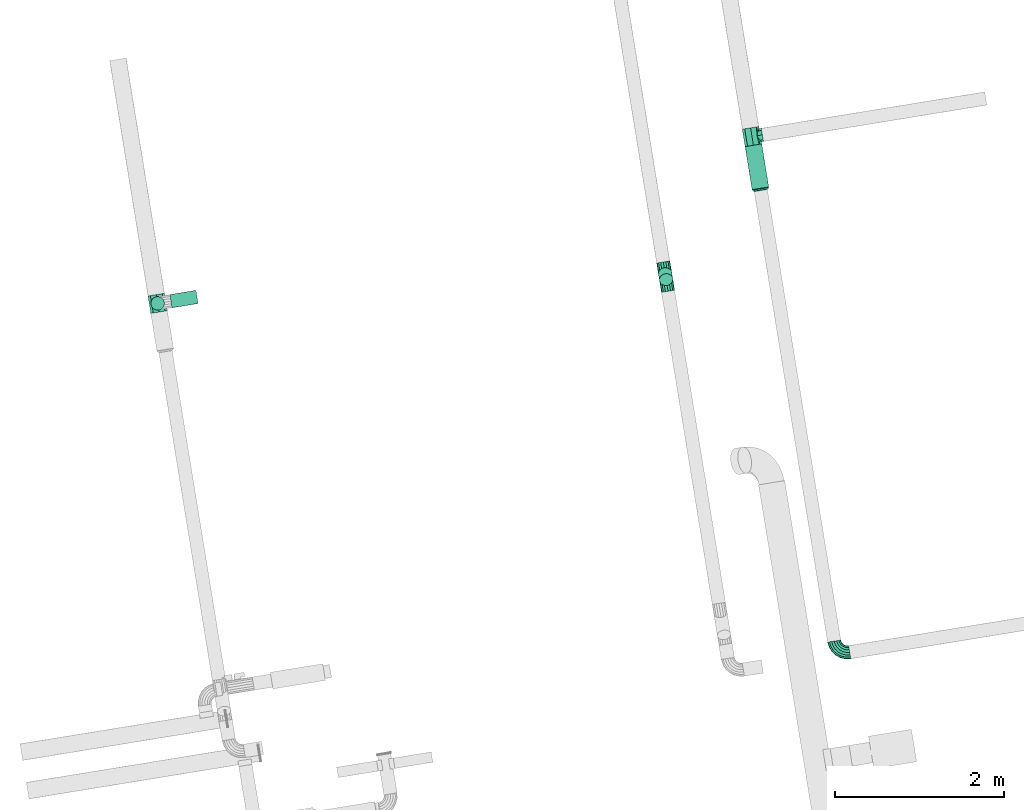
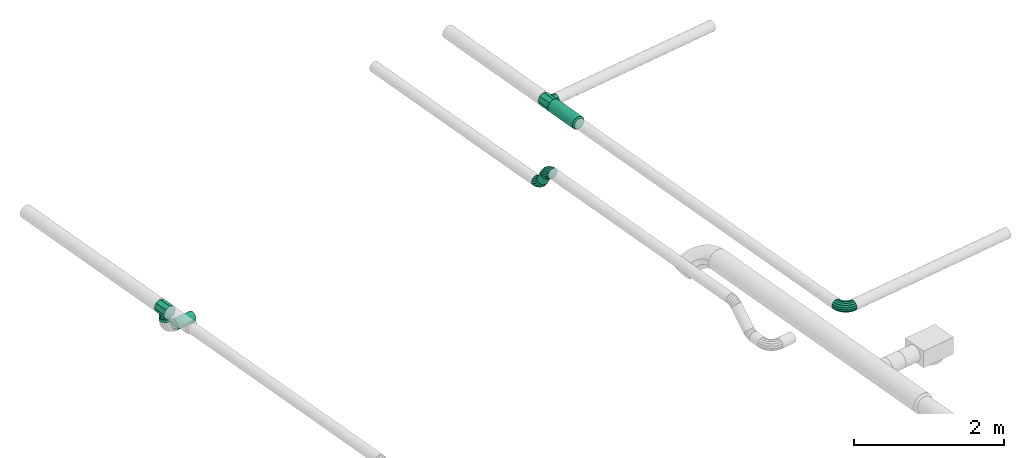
# One storey, part 8 of 19: 6 flow fittings, 4 flow segments.
"""IFC2X3 building model written with IfcOpenShell, lengths in millimetres."""

from ifc_helpers import new_model, entity, si_unit, converted_unit, derived_unit, direction, frame, frame_2d, origin, origin_with_axes, origin_2d_with_axis, place, context, subcontext, project, spatial, circle, extrude, faceted_brep, source, transform, mapped, material, type_object, element, save


model = new_model("IFC2X3")

# Units and contexts
model_context = context("Model", 3, precision=0.01, world=origin(), true_north=direction((6.12323399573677e-17, 1.0)))
plan_context = context("Plan", 3, precision=1e-05, world=origin_with_axes())
body_context = subcontext(model_context, "Body", "Model", "MODEL_VIEW")
ifc_project = project(units=[converted_unit("PLANEANGLEUNIT", "DEGREE", entity("IfcPositiveLengthMeasure", 0.0174532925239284), si_unit("PLANEANGLEUNIT", "RADIAN"), dimensions=[0, 0, 0, 0, 0, 0, 0]), si_unit("AREAUNIT", "SQUARE_METRE"), si_unit("LENGTHUNIT", "METRE", prefix="MILLI"), si_unit("MASSUNIT", "GRAM", prefix="KILO"), si_unit("POWERUNIT", "WATT"), si_unit("PRESSUREUNIT", "PASCAL", prefix="KILO"), si_unit("FORCEUNIT", "NEWTON", prefix="KILO"), si_unit("ELECTRICVOLTAGEUNIT", "VOLT"), si_unit("ELECTRICCURRENTUNIT", "AMPERE"), si_unit("THERMODYNAMICTEMPERATUREUNIT", "DEGREE_CELSIUS"), si_unit("TIMEUNIT", "SECOND"), si_unit("VOLUMEUNIT", "CUBIC_METRE"), derived_unit("LINEARVELOCITYUNIT", [(si_unit("LENGTHUNIT", "METRE"), 1), (si_unit("TIMEUNIT", "SECOND"), -1)]), derived_unit("VOLUMETRICFLOWRATEUNIT", [(si_unit("VOLUMEUNIT", "CUBIC_METRE"), 1), (si_unit("TIMEUNIT", "SECOND"), -1)]), derived_unit("THERMALTRANSMITTANCEUNIT", [(si_unit("POWERUNIT", "WATT"), 1), (si_unit("THERMODYNAMICTEMPERATUREUNIT", "KELVIN"), -1), (si_unit("AREAUNIT", "SQUARE_METRE"), -1)]), derived_unit("SOUNDPRESSUREUNIT", [(si_unit("PRESSUREUNIT", "PASCAL"), 1)])], contexts=[model_context, plan_context])

# Site, building, storey
site_placement = place(None, frame((5.09380697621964e-08, 5.80416781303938e-08, 0.0), z_axis=(0.0, 0.0, 1.0), x_axis=(-0.160806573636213, 0.986985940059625, 0.0)))
site = spatial("IfcSite", under=ifc_project, at=site_placement, Name="Default", CompositionType="ELEMENT")
building_placement = place(site_placement, frame((0.0, 0.0, 0.0), z_axis=(0.0, 0.0, 1.0), x_axis=(1.0, -2.77555756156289e-17, 0.0)))
building = spatial("IfcBuilding", under=site, at=building_placement, Name="Bygning (endres i Project Information)", CompositionType="ELEMENT")
storey_placement = place(building_placement, frame((0.0, 0.0, 51360.0000000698), z_axis=(0.0, 0.0, 1.0), x_axis=(1.0, -2.77555756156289e-17, 0.0)))
storey = spatial("IfcBuildingStorey", under=building, at=storey_placement, Name="H01-Nivå D+0,36", CompositionType="ELEMENT", Elevation=51360.0000000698)

# Flow fittings
ifc_material_1 = material(Name="DF_Material1")
duct_fitting_type_1 = type_object("IfcDuctFittingType", Name="Lindab TCPU:TCPU", PredefinedType="NOTDEFINED", material=ifc_material_1)
shared_shape_1 = source(origin(), body_context, "Body", "Brep", [
    faceted_brep([(80.0000001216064, -125.0, 0.0), (56.5685425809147, -125.0, 56.5685425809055), (0.0, -125.0, 80.0000001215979), (-56.5685425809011, -125.0, 56.5685425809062), (-80.0000001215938, -125.0, 0.0), (-56.568542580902, -125.0, -56.5685425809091), (0.0, -125.0, -80.0000001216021), (56.568542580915, -125.0, -56.568542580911), (-60.636107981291, -85.3037959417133, 52.1848869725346), (0.0, -60.0000000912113, 80.0000001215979), (-80.0000001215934, -100.000000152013, 0.0), (-70.3180540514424, -92.6518980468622, 26.092443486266), (-65.5820813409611, -89.4264237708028, -30.7499125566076), (-51.1641625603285, -78.852847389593, -61.4998251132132), (0.0, -60.0000000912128, -80.0000001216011), (60.6361079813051, -85.303795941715, -52.1848869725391), (80.0000001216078, -100.000000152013, 0.0), (70.3180540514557, -92.651898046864, -26.0924434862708), (65.5794107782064, -89.424691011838, 30.7521341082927), (51.1588214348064, -78.8493818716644, 61.504268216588), (-104.499999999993, -100.000000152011, 0.0), (-104.499999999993, -92.6776696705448, 17.677669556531), (-104.499999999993, -85.3553391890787, 35.3553391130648), (-104.499999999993, -70.7106782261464, 70.7106782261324), (-104.499999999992, 0.0, 100.000000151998), (-104.499999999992, 70.7106782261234, 70.7106782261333), (-104.499999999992, 100.000000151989, 0.0), (-104.499999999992, 70.7106782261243, -70.7106782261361), (-104.499999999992, 0.0, -100.000000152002), (-104.499999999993, -70.7106782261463, -70.7106782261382), (-104.499999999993, -85.3553391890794, -35.3553391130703), (104.500000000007, -70.7106782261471, 70.7106782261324), (104.500000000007, -85.3553391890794, 35.3553391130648), (104.500000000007, -100.000000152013, 0.0), (104.500000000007, -92.6776696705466, -17.6776695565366), (104.500000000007, -85.3553391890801, -35.3553391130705), (104.500000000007, -70.710678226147, -70.7106782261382), (104.500000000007, 0.0, -100.000000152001), (104.500000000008, 70.7106782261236, -70.7106782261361), (104.500000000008, 100.000000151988, 0.0), (104.500000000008, 70.7106782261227, 70.7106782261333), (104.500000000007, 0.0, 100.000000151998)], [[[0, 1, 2, 3, 4, 5, 6, 7]], [[2, 8, 3]], [[8, 2, 9]], [[10, 4, 3]], [[3, 8, 11, 10]], [[4, 10, 5]], [[5, 10, 12, 13]], [[13, 14, 6]], [[13, 6, 5]], [[6, 15, 7]], [[15, 6, 14]], [[16, 0, 7]], [[7, 15, 17, 16]], [[0, 16, 1]], [[1, 16, 18, 19]], [[19, 9, 2]], [[19, 2, 1]], [[20, 21, 22, 23, 24, 25, 26, 27, 28, 29, 30]], [[31, 32, 33, 34, 35, 36, 37, 38, 39, 40, 41]], [[24, 41, 40, 25]], [[40, 39, 26, 25]], [[39, 38, 27, 26]], [[38, 37, 28, 27]], [[37, 36, 14]], [[28, 14, 29]], [[14, 28, 37]], [[13, 29, 14]], [[17, 35, 34]], [[14, 36, 15]], [[35, 17, 15]], [[34, 16, 17]], [[30, 13, 12]], [[20, 30, 12]], [[15, 36, 35]], [[16, 34, 33]], [[13, 30, 29]], [[20, 12, 10]], [[11, 22, 21]], [[33, 18, 16]], [[11, 8, 22]], [[10, 21, 20]], [[32, 19, 18]], [[21, 10, 11]], [[32, 18, 33]], [[9, 19, 31]], [[31, 19, 32]], [[9, 31, 41]], [[23, 9, 24]], [[23, 8, 9]], [[24, 9, 41]], [[8, 23, 22]]]),
])
for number, where, z_axis, x_axis in (
    (1, (1013708.49004626, -386501.39713563, 3799.99999996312), (-2.77554043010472e-17, -0.99999382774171, -0.00351347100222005), (1.0, -2.77555756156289e-17, 0.0)),
    (2, (1014526.545205, -393771.087508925, 3500.0), (0.0, 0.0, 1.0), (1.0, -2.77555756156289e-17, 0.0)),
):
    element("IfcFlowFitting", number, at=place(storey_placement, frame(where, z_axis=z_axis, x_axis=x_axis)), inside=storey, type_object=duct_fitting_type_1, material=ifc_material_1, Name="Lindab TCPU:TCPU", ObjectType="Lindab TCPU:TCPU", context=body_context, shape_type="MappedRepresentation", body=[
        mapped(shared_shape_1, transform((0.0, 0.0, 0.0), scale=1.0)),
    ])
ifc_material_2 = material(Name="Material_Duct")
duct_fitting_type_2 = type_object("IfcDuctFittingType", Name="magicirc_reduction_NOR:magicirc_reduction_NOR", PredefinedType="NOTDEFINED", material=ifc_material_2)
shared_shape_2 = source(origin(), body_context, "Body", "Brep", [
    faceted_brep([(20.0000000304, -80.0000001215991, 0.0), (20.0000000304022, -76.9551814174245, -15.3073373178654), (20.0000000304, -73.9103627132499, -30.614674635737), (20.0000000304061, -65.2394526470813, -43.5916086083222), (20.0000000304, -56.5685425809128, -56.5685425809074), (20.0000000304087, -43.5916086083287, -65.2394526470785), (20.0000000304, -30.6146746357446, -73.9103627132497), (20.0000000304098, -15.307337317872, -76.9551814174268), (20.0000000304, 0.0, -80.000000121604), (20.0000000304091, 15.3073373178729, -76.9551814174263), (20.0000000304, 30.6146746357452, -73.9103627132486), (20.0000000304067, 43.5916086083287, -65.2394526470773), (20.0000000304, 56.5685425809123, -56.568542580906), (20.000000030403, 65.2394526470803, -43.5916086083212), (20.0000000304, 73.9103627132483, -30.6146746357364), (20.0000000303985, 76.9551814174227, -15.3073373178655), (20.0000000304, 80.000000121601, 0.0), (20.0000000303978, 76.9551814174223, 15.3073373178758), (20.0000000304, 73.9103627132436, 30.6146746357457), (20.0000000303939, 65.2394526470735, 43.591608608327), (20.0000000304, 56.5685425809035, 56.5685425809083), (20.0000000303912, 43.5916086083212, 65.239452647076), (20.0000000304, 30.6146746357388, 73.9103627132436), (20.0000000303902, 15.3073373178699, 76.9551814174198), (20.0000000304, 0.0, 80.000000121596), (20.0000000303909, -15.3073373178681, 76.9551814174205), (20.0000000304, -30.6146746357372, 73.910362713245), (20.0000000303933, -43.5916086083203, 65.2394526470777), (20.0000000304, -56.5685425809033, 56.5685425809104), (20.000000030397, -65.2394526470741, 43.5916086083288), (20.0000000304, -73.9103627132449, 30.6146746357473), (20.0000000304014, -76.9551814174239, 15.3073373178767), (0.0, 100.000000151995, 0.0), (0.0, 93.9692622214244, -34.2020143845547), (0.0, 76.6044444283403, -64.2787610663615), (0.0, 50.0000000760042, -86.6025405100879), (0.0, 17.3648177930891, -98.4807754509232), (0.0, -17.3648177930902, -98.4807754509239), (0.0, -50.0000000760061, -86.6025405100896), (0.0, -76.6044444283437, -64.278761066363), (0.0, -93.9692622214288, -34.2020143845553), (0.0, -100.000000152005, 0.0), (0.0, -93.9692622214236, 34.2020143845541), (0.0, -76.6044444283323, 64.2787610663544), (0.0, -50.0000000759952, 86.6025405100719), (0.0, -17.3648177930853, 98.4807754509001), (0.0, 17.3648177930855, 98.4807754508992), (0.0, 50.0000000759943, 86.6025405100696), (0.0, 76.6044444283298, 64.2787610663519), (0.0, 93.9692622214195, 34.2020143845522)], [[[0, 1, 2, 3, 4, 5, 6, 7, 8, 9, 10, 11, 12, 13, 14, 15, 16, 17, 18, 19, 20, 21, 22, 23, 24, 25, 26, 27, 28, 29, 30, 31]], [[32, 33, 34, 35, 36, 37, 38, 39, 40, 41, 42, 43, 44, 45, 46, 47, 48, 49]], [[32, 15, 33]], [[33, 13, 34]], [[15, 32, 16]], [[40, 2, 1]], [[35, 12, 11, 10]], [[13, 12, 34]], [[13, 33, 14]], [[10, 36, 35]], [[37, 8, 7, 6]], [[39, 4, 3]], [[9, 8, 36, 10]], [[12, 35, 34]], [[15, 14, 33]], [[38, 6, 5, 4]], [[41, 1, 0]], [[40, 3, 2]], [[6, 38, 37]], [[38, 4, 39]], [[39, 3, 40]], [[40, 1, 41]], [[8, 37, 36]], [[41, 31, 42]], [[42, 29, 43]], [[31, 41, 0]], [[49, 18, 17]], [[44, 28, 27, 26]], [[29, 28, 43]], [[29, 42, 30]], [[26, 45, 44]], [[46, 24, 23, 22]], [[48, 20, 19]], [[25, 24, 45, 26]], [[28, 44, 43]], [[31, 30, 42]], [[47, 22, 21, 20]], [[32, 17, 16]], [[49, 19, 18]], [[22, 47, 46]], [[47, 20, 48]], [[48, 19, 49]], [[49, 17, 32]], [[24, 46, 45]]]),
])
flow_fitting_1_placement = place(storey_placement, frame((1013902.045205, -393771.087508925, 3499.99999994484), z_axis=(0.0, 0.0, 1.0), x_axis=(-1.0, 2.77555756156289e-17, 0.0)))
element("IfcFlowFitting", 3, at=flow_fitting_1_placement, inside=storey, type_object=duct_fitting_type_2, material=ifc_material_2, Name="magicirc_reduction_NOR:magicirc_reduction_NOR", ObjectType="magicirc_reduction_NOR:magicirc_reduction_NOR", context=body_context, shape_type="MappedRepresentation", body=[
    mapped(shared_shape_2, transform((0.0, 0.0, 0.0), scale=1.0)),
])
ifc_material_3 = material(Name="3601.001 Tilluft")
duct_fitting_type_3 = type_object("IfcDuctFittingType", Name="magicirc_elbow_full_radius_NOR:magicirc_elbow_full_radius_NOR", PredefinedType="NOTDEFINED", material=ifc_material_3)
shared_shape_3 = source(origin(), body_context, "Body", "Brep", [
    faceted_brep([(-97.8834293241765, -71.822198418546, 0.0), (-99.4595434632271, -65.9400603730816, 30.6146746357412), (-160.000000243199, -73.9103627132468, 30.6146746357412), (-160.000000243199, -80.0000001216, 0.0), (-103.947936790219, -49.189148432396, 56.5685425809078), (-160.000000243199, -56.5685425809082, 56.5685425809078), (-110.665292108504, -24.1196370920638, 73.9103627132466), (-160.000000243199, -30.6146746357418, 73.9103627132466), (-118.588952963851, 5.45186780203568, 80.0000001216), (-160.000000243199, 0.0, 80.0000001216), (-126.512613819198, 35.0233726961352, 73.9103627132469), (-160.000000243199, 30.6146746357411, 73.9103627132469), (-133.229969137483, 60.0928840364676, 56.5685425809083), (-160.000000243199, 56.5685425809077, 56.5685425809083), (-137.718362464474, 76.8437959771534, 30.6146746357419), (-160.000000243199, 73.9103627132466, 30.6146746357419), (-139.294476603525, 82.725934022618, 0.0), (-160.000000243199, 80.0000001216, 0.0), (-137.718362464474, 76.8437959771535, -30.6146746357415), (-160.000000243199, 73.9103627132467, -30.6146746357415), (-133.229969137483, 60.0928840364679, -56.568542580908), (-160.000000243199, 56.568542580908, -56.568542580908), (-126.512613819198, 35.0233726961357, -73.9103627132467), (-160.000000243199, 30.6146746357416, -73.9103627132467), (-118.588952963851, 5.45186780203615, -80.0000001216), (-160.000000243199, 0.0, -80.0000001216), (-110.665292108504, -24.1196370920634, -73.9103627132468), (-160.000000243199, -30.6146746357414, -73.9103627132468), (-103.947936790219, -49.1891484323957, -56.5685425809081), (-160.000000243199, -56.5685425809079, -56.5685425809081), (-99.4595434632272, -65.9400603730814, -30.6146746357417), (-160.000000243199, -73.9103627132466, -30.6146746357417), (-40.0000000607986, -47.846096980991, 0.0), (-43.0448187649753, -42.5723162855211, 30.6146746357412), (-51.7157288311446, -27.5538595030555, 56.5685425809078), (-64.6926628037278, -5.07715053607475, 73.9103627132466), (-80.0000001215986, 21.4359354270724, 80.0000001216), (-95.3073374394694, 47.9490213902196, 73.9103627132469), (-108.284271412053, 70.4257303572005, 56.5685425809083), (-116.955181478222, 85.4441871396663, 30.6146746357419), (-120.000000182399, 90.7179678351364, 0.0), (-116.955181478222, 85.4441871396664, -30.6146746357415), (-108.284271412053, 70.4257303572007, -56.568542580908), (-95.3073374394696, 47.94902139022, -73.9103627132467), (-80.0000001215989, 21.4359354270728, -80.0000001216), (-64.6926628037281, -5.07715053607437, -73.9103627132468), (-51.7157288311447, -27.5538595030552, -56.5685425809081), (-43.0448187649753, -42.5723162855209, -30.6146746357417), (9.70562749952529, -9.70562749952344, 0.0), (5.39960359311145, -5.39960359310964, 30.6146746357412), (-6.86291502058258, 6.86291502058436, 56.5685425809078), (-25.21507104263, 25.2150710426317, 73.9103627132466), (-46.8629150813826, 46.8629150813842, 80.0000001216), (-68.5107591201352, 68.5107591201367, 73.9103627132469), (-86.8629151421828, 86.8629151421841, 56.5685425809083), (-99.125433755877, 99.1254337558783, 30.6146746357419), (-103.431457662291, 103.431457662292, 0.0), (-99.1254337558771, 99.1254337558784, -30.6146746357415), (-86.862915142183, 86.8629151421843, -56.568542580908), (-68.5107591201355, 68.510759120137, -73.9103627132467), (-46.8629150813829, 46.8629150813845, -80.0000001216), (-25.2150710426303, 25.215071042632, -73.9103627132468), (-6.8629150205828, 6.86291502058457, -56.5685425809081), (5.39960359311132, -5.39960359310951, -30.6146746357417), (47.8460969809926, 40.0000000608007, 0.0), (42.5723162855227, 43.0448187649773, 30.6146746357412), (27.553859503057, 51.7157288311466, 56.5685425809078), (5.07715053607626, 64.6926628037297, 73.9103627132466), (-21.435935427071, 80.0000001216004, 80.0000001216), (-47.9490213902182, 95.307337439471, 73.9103627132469), (-70.4257303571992, 108.284271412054, 56.5685425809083), (-85.444187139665, 116.955181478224, 30.6146746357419), (-90.7179678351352, 120.0000001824, 0.0), (-85.4441871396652, 116.955181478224, -30.6146746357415), (-70.4257303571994, 108.284271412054, -56.568542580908), (-47.9490213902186, 95.3073374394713, -73.9103627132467), (-21.4359354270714, 80.0000001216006, -80.0000001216), (5.07715053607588, 64.6926628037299, -73.9103627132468), (27.5538595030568, 51.7157288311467, -56.5685425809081), (42.5723162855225, 43.0448187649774, -30.6146746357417), (71.8221984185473, 97.8834293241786, 0.0), (65.9400603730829, 99.4595434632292, 30.6146746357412), (49.1891484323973, 103.947936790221, 56.5685425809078), (24.1196370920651, 110.665292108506, 73.9103627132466), (-5.45186780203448, 118.588952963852, 80.0000001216), (-35.0233726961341, 126.512613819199, 73.9103627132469), (-60.0928840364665, 133.229969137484, 56.5685425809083), (-76.8437959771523, 137.718362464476, 30.6146746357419), (-82.7259340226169, 139.294476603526, 0.0), (-76.8437959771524, 137.718362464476, -30.6146746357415), (-60.0928840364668, 133.229969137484, -56.568542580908), (-35.0233726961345, 126.512613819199, -73.9103627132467), (-5.45186780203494, 118.588952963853, -80.0000001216), (24.1196370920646, 110.665292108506, -73.9103627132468), (49.189148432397, 103.947936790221, -56.5685425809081), (65.9400603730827, 99.4595434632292, -30.6146746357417), (80.000000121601, 160.000000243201, 0.0), (73.9103627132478, 160.000000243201, 30.6146746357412), (56.5685425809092, 160.000000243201, 56.5685425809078), (30.6146746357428, 160.000000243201, 73.9103627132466), (0.0, 160.000000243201, 80.0000001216), (-30.6146746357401, 160.000000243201, 73.9103627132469), (-56.5685425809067, 160.000000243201, 56.5685425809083), (-73.9103627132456, 160.000000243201, 30.6146746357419), (-80.000000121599, 160.000000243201, 0.0), (-73.9103627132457, 160.000000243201, -30.6146746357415), (-56.568542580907, 160.000000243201, -56.568542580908), (-30.6146746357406, 160.000000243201, -73.9103627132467), (0.0, 160.000000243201, -80.0000001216), (30.6146746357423, 160.000000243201, -73.9103627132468), (56.5685425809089, 160.000000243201, -56.5685425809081), (73.9103627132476, 160.000000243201, -30.6146746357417)], [[[0, 1, 2, 3]], [[1, 4, 5, 2]], [[4, 6, 7, 5]], [[6, 8, 9, 7]], [[8, 10, 11, 9]], [[10, 12, 13, 11]], [[12, 14, 15, 13]], [[14, 16, 17, 15]], [[16, 18, 19, 17]], [[18, 20, 21, 19]], [[20, 22, 23, 21]], [[22, 24, 25, 23]], [[24, 26, 27, 25]], [[26, 28, 29, 27]], [[28, 30, 31, 29]], [[30, 0, 3, 31]], [[32, 33, 1, 0]], [[33, 34, 4, 1]], [[34, 35, 6, 4]], [[35, 36, 8, 6]], [[36, 37, 10, 8]], [[37, 38, 12, 10]], [[38, 39, 14, 12]], [[39, 40, 16, 14]], [[40, 41, 18, 16]], [[41, 42, 20, 18]], [[42, 43, 22, 20]], [[43, 44, 24, 22]], [[44, 45, 26, 24]], [[45, 46, 28, 26]], [[46, 47, 30, 28]], [[47, 32, 0, 30]], [[48, 49, 33, 32]], [[49, 50, 34, 33]], [[50, 51, 35, 34]], [[51, 52, 36, 35]], [[52, 53, 37, 36]], [[53, 54, 38, 37]], [[54, 55, 39, 38]], [[55, 56, 40, 39]], [[56, 57, 41, 40]], [[57, 58, 42, 41]], [[58, 59, 43, 42]], [[59, 60, 44, 43]], [[60, 61, 45, 44]], [[61, 62, 46, 45]], [[62, 63, 47, 46]], [[63, 48, 32, 47]], [[64, 65, 49, 48]], [[65, 66, 50, 49]], [[66, 67, 51, 50]], [[67, 68, 52, 51]], [[68, 69, 53, 52]], [[69, 70, 54, 53]], [[70, 71, 55, 54]], [[71, 72, 56, 55]], [[72, 73, 57, 56]], [[73, 74, 58, 57]], [[74, 75, 59, 58]], [[75, 76, 60, 59]], [[76, 77, 61, 60]], [[77, 78, 62, 61]], [[78, 79, 63, 62]], [[79, 64, 48, 63]], [[80, 81, 65, 64]], [[81, 82, 66, 65]], [[82, 83, 67, 66]], [[83, 84, 68, 67]], [[84, 85, 69, 68]], [[85, 86, 70, 69]], [[86, 87, 71, 70]], [[87, 88, 72, 71]], [[88, 89, 73, 72]], [[89, 90, 74, 73]], [[90, 91, 75, 74]], [[91, 92, 76, 75]], [[92, 93, 77, 76]], [[93, 94, 78, 77]], [[94, 95, 79, 78]], [[95, 80, 64, 79]], [[96, 97, 81, 80]], [[97, 98, 82, 81]], [[98, 99, 83, 82]], [[99, 100, 84, 83]], [[100, 101, 85, 84]], [[101, 102, 86, 85]], [[102, 103, 87, 86]], [[103, 104, 88, 87]], [[104, 105, 89, 88]], [[105, 106, 90, 89]], [[106, 107, 91, 90]], [[107, 108, 92, 91]], [[108, 109, 93, 92]], [[109, 110, 94, 93]], [[110, 111, 95, 94]], [[111, 96, 80, 95]], [[3, 2, 5, 7, 9, 11, 13, 15, 17, 19, 21, 23, 25, 27, 29, 31]], [[111, 110, 109, 108, 107, 106, 105, 104, 103, 102, 101, 100, 99, 98, 97, 96]]]),
])
flow_fitting_2_placement = place(storey_placement, frame((1008308.49004626, -393771.087508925, 3499.99999994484), z_axis=(0.0, 0.0, 1.0), x_axis=(-1.0, 2.77555756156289e-17, 0.0)))
element("IfcFlowFitting", 4, at=flow_fitting_2_placement, inside=storey, type_object=duct_fitting_type_3, material=ifc_material_3, Name="magicirc_elbow_full_radius_NOR:magicirc_elbow_full_radius_NOR", ObjectType="magicirc_elbow_full_radius_NOR:magicirc_elbow_full_radius_NOR", context=body_context, shape_type="MappedRepresentation", body=[
    mapped(shared_shape_3, transform((0.0, 0.0, 0.0), scale=1.0)),
])
duct_fitting_type_4 = type_object("IfcDuctFittingType", Name="magicirc_elbow_full_radius_NOR:magicirc_elbow_full_radius_NOR", PredefinedType="NOTDEFINED", material=ifc_material_3)
shared_shape_4 = source(origin(), body_context, "Body", "Brep", [
    faceted_brep([(-31.6273784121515, -71.3886607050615, 0.0), (-33.2439878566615, -65.517523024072, 30.6146746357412), (-95.339918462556, -73.9103627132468, 30.6146746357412), (-95.339918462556, -80.0000001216, 0.0), (-37.8477020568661, -48.7979374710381, 56.5685425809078), (-95.3399184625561, -56.5685425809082, 56.5685425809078), (-44.7376472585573, -23.7753093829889, 73.9103627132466), (-95.3399184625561, -30.6146746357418, 73.9103627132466), (-52.8648917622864, 5.74089294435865, 80.0000001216), (-95.3399184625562, 0.0, 80.0000001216), (-60.9921362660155, 35.2570952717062, 73.9103627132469), (-95.3399184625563, 30.6146746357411, 73.9103627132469), (-67.8820814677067, 60.2797233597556, 56.5685425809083), (-95.3399184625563, 56.5685425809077, 56.5685425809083), (-72.4857956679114, 76.9993089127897, 30.6146746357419), (-95.3399184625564, 73.9103627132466, 30.6146746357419), (-74.1024051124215, 82.8704465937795, 0.0), (-95.3399184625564, 80.0000001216, 0.0), (-72.4857956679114, 76.9993089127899, -30.6146746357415), (-95.3399184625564, 73.9103627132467, -30.6146746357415), (-67.8820814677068, 60.2797233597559, -56.568542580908), (-95.3399184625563, 56.568542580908, -56.568542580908), (-60.9921362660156, 35.2570952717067, -73.9103627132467), (-95.3399184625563, 30.6146746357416, -73.9103627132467), (-52.8648917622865, 5.74089294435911, -80.0000001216), (-95.3399184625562, 0.0, -80.0000001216), (-44.7376472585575, -23.7753093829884, -73.9103627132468), (-95.3399184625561, -30.6146746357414, -73.9103627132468), (-37.8477020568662, -48.7979374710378, -56.5685425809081), (-95.3399184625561, -56.5685425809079, -56.5685425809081), (-33.2439878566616, -65.5175230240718, -30.6146746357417), (-95.339918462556, -73.9103627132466, -30.6146746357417), (27.5130757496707, -46.1726021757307, 0.0), (24.3958666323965, -40.9412838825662, 30.6146746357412), (15.5188061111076, -26.0437497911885, 56.5685425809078), (2.23334617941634, -3.74801442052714, 73.9103627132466), (-13.4379223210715, 22.5515986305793, 80.0000001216), (-29.1091908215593, 48.8512116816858, 73.9103627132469), (-42.3946507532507, 71.1469470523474, 56.5685425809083), (-51.2717112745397, 86.0444811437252, 30.6146746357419), (-54.3889203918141, 91.2757994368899, 0.0), (-51.2717112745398, 86.0444811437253, -30.6146746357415), (-42.3946507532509, 71.1469470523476, -56.568542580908), (-29.1091908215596, 48.8512116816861, -73.9103627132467), (-13.4379223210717, 22.5515986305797, -80.0000001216), (2.23334617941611, -3.74801442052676, -73.9103627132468), (15.5188061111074, -26.0437497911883, -56.5685425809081), (24.3958666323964, -40.941283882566, -30.6146746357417), (77.8374563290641, -6.16135818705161, 0.0), (73.4433420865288, -1.94526475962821, 30.6146746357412), (60.9299634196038, 10.061153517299, 56.5685425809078), (42.2023687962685, 28.0300282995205, 73.9103627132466), (20.1116647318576, 49.2257612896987, 80.0000001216), (-1.97903933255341, 70.421494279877, 73.9103627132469), (-20.7066339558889, 88.3903690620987, 56.5685425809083), (-33.220012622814, 100.396787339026, 30.6146746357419), (-37.6141268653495, 104.61288076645, 0.0), (-33.2200126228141, 100.396787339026, -30.6146746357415), (-20.7066339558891, 88.3903690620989, -56.568542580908), (-1.97903933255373, 70.4214942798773, -73.9103627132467), (20.1116647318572, 49.2257612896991, -80.0000001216), (42.2023687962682, 28.0300282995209, -73.9103627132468), (60.9299634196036, 10.0611535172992, -56.5685425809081), (73.4433420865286, -1.94526475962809, -30.6146746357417), (115.73442731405, 45.7738179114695, 0.0), (110.37873468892, 48.6721347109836, 30.6146746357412), (95.1270124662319, 56.9258426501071, 56.5685425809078), (72.3011970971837, 69.2783895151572, 73.9103627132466), (45.3763120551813, 83.8492120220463, 80.0000001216), (18.4514270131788, 98.4200345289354, 73.9103627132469), (-4.37438835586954, 110.772581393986, 56.5685425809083), (-19.6261105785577, 119.026289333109, 30.6146746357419), (-24.9818032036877, 121.924606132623, 0.0), (-19.6261105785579, 119.026289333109, -30.6146746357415), (-4.37438835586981, 110.772581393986, -56.568542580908), (18.4514270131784, 98.4200345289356, -73.9103627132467), (45.3763120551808, 83.8492120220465, -80.0000001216), (72.3011970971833, 69.2783895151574, -73.9103627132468), (95.1270124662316, 56.9258426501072, -56.5685425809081), (110.37873468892, 48.6721347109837, -30.6146746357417)], [[[0, 1, 2, 3]], [[1, 4, 5, 2]], [[4, 6, 7, 5]], [[6, 8, 9, 7]], [[8, 10, 11, 9]], [[10, 12, 13, 11]], [[12, 14, 15, 13]], [[14, 16, 17, 15]], [[16, 18, 19, 17]], [[18, 20, 21, 19]], [[20, 22, 23, 21]], [[22, 24, 25, 23]], [[24, 26, 27, 25]], [[26, 28, 29, 27]], [[28, 30, 31, 29]], [[30, 0, 3, 31]], [[32, 33, 1, 0]], [[33, 34, 4, 1]], [[34, 35, 6, 4]], [[35, 36, 8, 6]], [[36, 37, 10, 8]], [[37, 38, 12, 10]], [[38, 39, 14, 12]], [[39, 40, 16, 14]], [[40, 41, 18, 16]], [[41, 42, 20, 18]], [[42, 43, 22, 20]], [[43, 44, 24, 22]], [[44, 45, 26, 24]], [[45, 46, 28, 26]], [[46, 47, 30, 28]], [[47, 32, 0, 30]], [[48, 49, 33, 32]], [[49, 50, 34, 33]], [[50, 51, 35, 34]], [[51, 52, 36, 35]], [[52, 53, 37, 36]], [[53, 54, 38, 37]], [[54, 55, 39, 38]], [[55, 56, 40, 39]], [[56, 57, 41, 40]], [[57, 58, 42, 41]], [[58, 59, 43, 42]], [[59, 60, 44, 43]], [[60, 61, 45, 44]], [[61, 62, 46, 45]], [[62, 63, 47, 46]], [[63, 48, 32, 47]], [[64, 65, 49, 48]], [[65, 66, 50, 49]], [[66, 67, 51, 50]], [[67, 68, 52, 51]], [[68, 69, 53, 52]], [[69, 70, 54, 53]], [[70, 71, 55, 54]], [[71, 72, 56, 55]], [[72, 73, 57, 56]], [[73, 74, 58, 57]], [[74, 75, 59, 58]], [[75, 76, 60, 59]], [[76, 77, 61, 60]], [[77, 78, 62, 61]], [[78, 79, 63, 62]], [[79, 64, 48, 63]], [[3, 2, 5, 7, 9, 11, 13, 15, 17, 19, 21, 23, 25, 27, 29, 31]], [[79, 78, 77, 76, 75, 74, 73, 72, 71, 70, 69, 68, 67, 66, 65, 64]]]),
])
for number, where, z_axis, x_axis, name in (
    (5, (1012971.5421391, -392493.89713582, 3799.99999993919), (2.77555756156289e-17, 1.0, 0.0), (1.0, -2.77555756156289e-17, 0.0), "magicirc_elbow_full_radius_NOR:magicirc_elbow_full_radius_NOR"),
    (6, (1013133.89182952, -392493.89713582, 3500.0), (2.77555756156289e-17, 1.0, 0.0), (-1.0, 2.77555756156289e-17, 0.0), "magicirc_elbow_full_radius_NOR:magicirc_elbow_full_radius_NOR"),
):
    element("IfcFlowFitting", number, at=place(storey_placement, frame(where, z_axis=z_axis, x_axis=x_axis)), inside=storey, type_object=duct_fitting_type_4, material=ifc_material_3, Name=name, ObjectType="magicirc_elbow_full_radius_NOR:magicirc_elbow_full_radius_NOR", context=body_context, shape_type="MappedRepresentation", body=[
        mapped(shared_shape_4, transform((0.0, 0.0, 0.0), scale=1.0)),
    ])

# Flow segments
duct_segment_type = type_object("IfcDuctSegmentType", Name="Round Duct:Sirkulær kanal", PredefinedType="NOTDEFINED", material=ifc_material_3)
flow_segment_1_placement = place(storey_placement, frame((0.0, 0.0, 0.0), z_axis=(0.0, 0.0, 1.0), x_axis=(1.0, -2.77555756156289e-17, 0.0)))
element("IfcFlowSegment", 7, at=flow_segment_1_placement, inside=storey, type_object=duct_segment_type, Name="Round Duct:Sirkulær kanal", ObjectType="Round Duct:Sirkulær kanal", context=body_context, shape_type="SweptSolid", body=[
    extrude(circle(Radius=80.0000001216, at=frame_2d((0.0, -3.04369780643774e-14), x_axis=(1.0, 0.0))), frame((1013708.49004626, -386500.801817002, 3630.56215548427), z_axis=(0.0, -0.00351347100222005, 0.99999382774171), x_axis=(-1.0, 0.0, 0.0)), (0.0, 0.0, 1.0), 44.438890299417),
])
flow_segment_2_placement = place(storey_placement, frame((0.0, 0.0, 0.0), z_axis=(0.0, 0.0, 1.0), x_axis=(1.0, -2.77555756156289e-17, 0.0)))
element("IfcFlowSegment", 8, at=flow_segment_2_placement, inside=storey, type_object=duct_segment_type, Name="Round Duct:Sirkulær kanal", ObjectType="Round Duct:Sirkulær kanal", context=body_context, shape_type="SweptSolid", body=[
    extrude(circle(Radius=80.0000001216, at=frame_2d((0.0, 8.66293703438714e-12), x_axis=(1.0, 0.0))), frame((1013708.49004626, -386973.881487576, 3469.99999987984), z_axis=(0.0, 1.0, 0.0), x_axis=(-1.0, 0.0, 0.0)), (0.0, 0.0, 1.0), 313.080657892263),
])
flow_segment_3_placement = place(storey_placement, frame((0.0, 0.0, 0.0), z_axis=(0.0, 0.0, 1.0), x_axis=(1.0, -2.77555756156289e-17, 0.0)))
element("IfcFlowSegment", 9, at=flow_segment_3_placement, inside=storey, type_object=duct_segment_type, Name="Round Duct:Sirkulær kanal", ObjectType="Round Duct:Sirkulær kanal", context=body_context, shape_type="SweptSolid", body=[
    extrude(circle(Radius=80.0000001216, at=frame_2d((-2.41459520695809e-25, -4.1230592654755e-12), x_axis=(1.0, 0.0))), frame((1013088.51551747, -392493.89713582, 3583.84921202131), z_axis=(-0.475942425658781, 0.0, 0.879476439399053), x_axis=(0.0, -1.0, 0.0)), (0.0, 0.0, 1.0), 150.432200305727),
])
flow_segment_4_placement = place(storey_placement, frame((0.0, 0.0, 0.0), z_axis=(0.0, 0.0, 1.0), x_axis=(1.0, -2.77555756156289e-17, 0.0)))
element("IfcFlowSegment", 10, at=flow_segment_4_placement, inside=storey, type_object=duct_segment_type, Name="Round Duct:Sirkulær kanal", ObjectType="Round Duct:Sirkulær kanal", context=body_context, shape_type="SweptSolid", body=[
    extrude(circle(Radius=100.000000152, at=origin_2d_with_axis()), frame((1013902.045205, -393771.087508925, 3499.99999994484), z_axis=(1.0, 0.0, 0.0), x_axis=(0.0, 1.0, 0.0)), (0.0, 0.0, 1.0), 520.00000000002),
])

save(model, "model.ifc")
